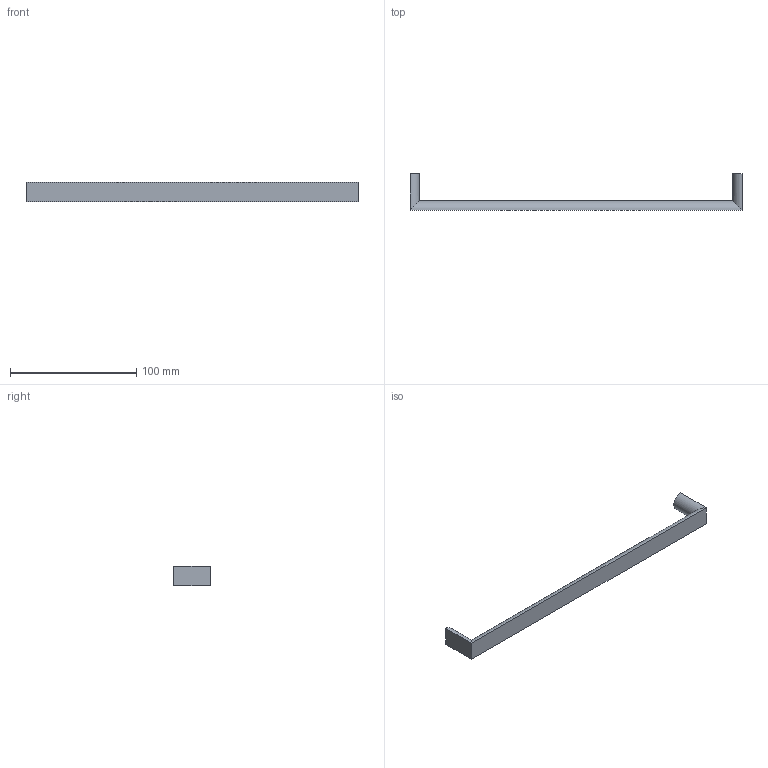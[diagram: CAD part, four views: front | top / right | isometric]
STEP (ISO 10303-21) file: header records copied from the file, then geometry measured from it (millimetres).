
FILE_DESCRIPTION( ( 'STEP AP214' ), '1' );
FILE_NAME( 'C:/Users/KOSH/Desktop/2021/Sunil/New folder/9995548.stp', '2021-11-15T13:10:57', ( '' ), ( '' ), ' ', 'PARTsolutions', ' ' );
FILE_SCHEMA( ( 'AUTOMOTIVE_DESIGN { 1 0 10303 214 1 1 1 1 }' ) );
Length unit declared in the file: millimetre
Products named in the file (1): _9995548
Bounding box: 263 x 29 x 15.5 mm (x, y, z)
Volume: 27601.7 mm3; surface area: 12658.1 mm2
Topology: 1 solids, 1 shells, 12 faces, 20 edges, 12 vertices
Faces by surface type: plane 7, cylinder 5
Full cylindrical faces by diameter (mm): 4 x2
Entity records: 382 total; most frequent: DIRECTION 52, CARTESIAN_POINT 43, ORIENTED_EDGE 36, AXIS2_PLACEMENT_3D 21, EDGE_CURVE 18, EDGE_LOOP 16, FACE_OUTER_BOUND 14, STYLED_ITEM 12
